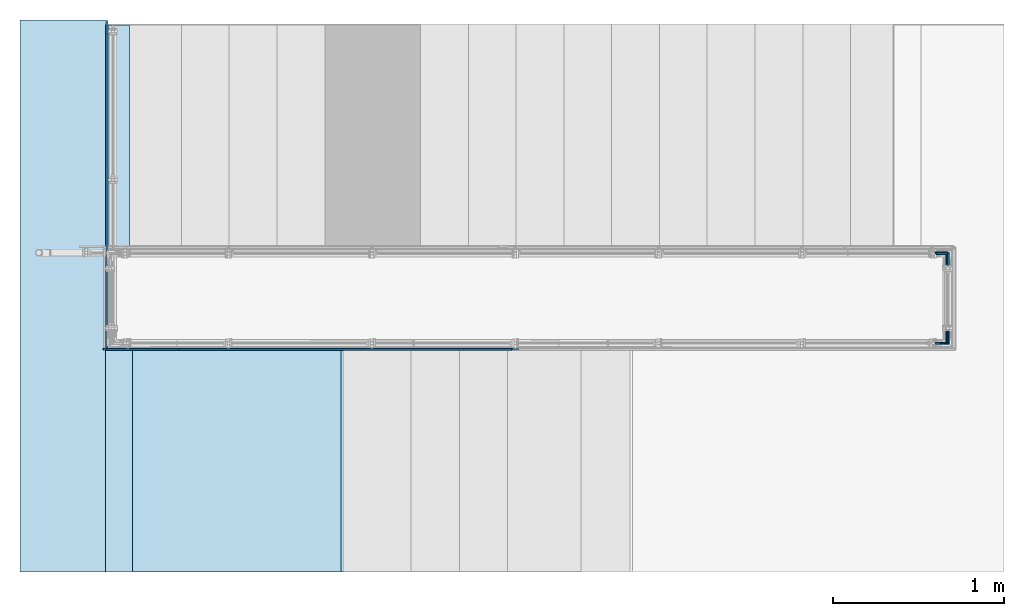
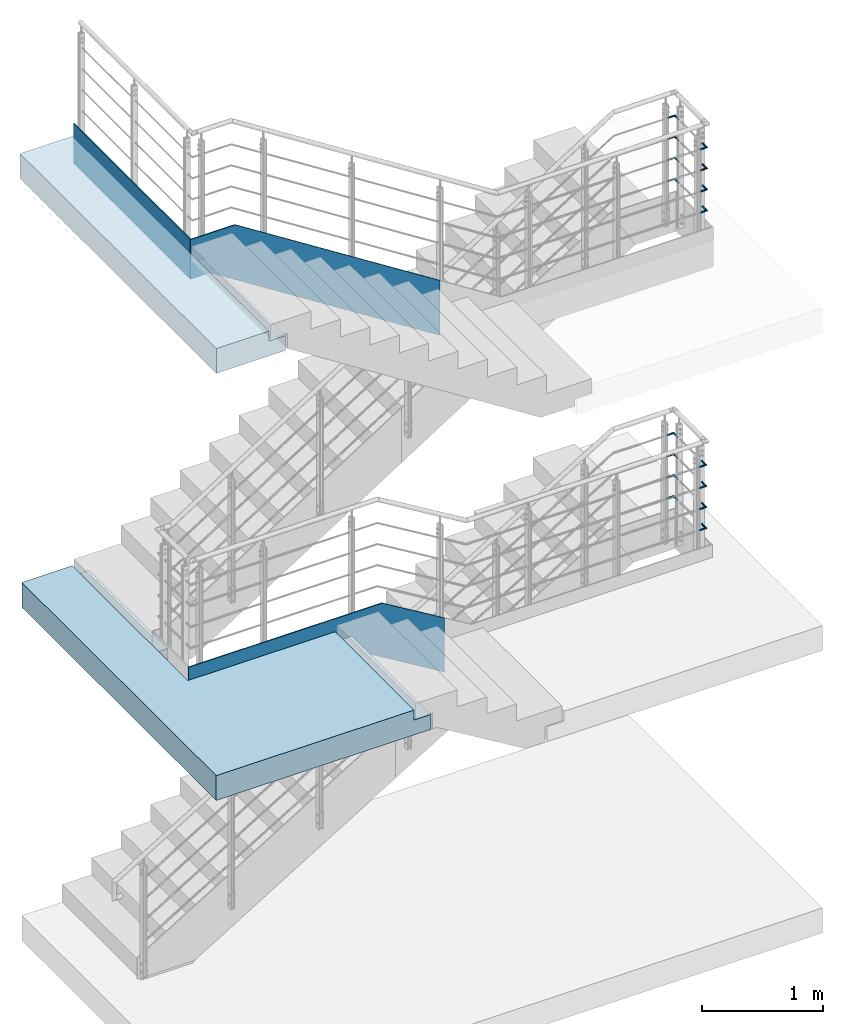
# One storey, part 16 of 98: 32 beams, 3 plates, 2 slabs, 5 openings.
"""IFC2X3 building model written with IfcOpenShell, lengths in millimetres."""

from ifc_helpers import new_model, entity, si_unit, converted_unit, frame, origin, origin_with_axes, origin_2d, place, context, project, spatial, polyline, circle, outline, extrude, clip, halfspace, material, layer, layer_set, element, save


model = new_model("IFC2X3")

# Units and contexts
model_context = context("Model", 3, precision=1e-09, world=origin_with_axes())
ifc_project = project(units=[si_unit("LENGTHUNIT", "METRE", prefix="MILLI"), si_unit("AREAUNIT", "SQUARE_METRE"), si_unit("VOLUMEUNIT", "CUBIC_METRE"), converted_unit("PLANEANGLEUNIT", "DEGREE", entity("IfcPlaneAngleMeasure", 0.01745329), si_unit("PLANEANGLEUNIT", "RADIAN"), dimensions=[0, 0, 0, 0, 0, 0, 0])], contexts=[model_context])

# Site, building, storey
site_placement = place(None, origin_with_axes())
site = spatial("IfcSite", under=ifc_project, at=site_placement, Name="Maybachstra?e 2, 71563 Affalterbach", CompositionType="ELEMENT")
building_placement = place(site_placement, origin_with_axes())
building = spatial("IfcBuilding", under=site, at=building_placement, Name="Struktur 1", CompositionType="ELEMENT")
storey_placement = place(building_placement, origin_with_axes())
storey = spatial("IfcBuildingStorey", under=building, at=storey_placement, Name="Default Storey", CompositionType="ELEMENT", Elevation=0.0)

# Beams
ifc_material_1 = material(Name="S235JR")
beam_1_placement = place(None, frame((12231.032157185, -33.0, 6711.3), z_axis=(0.0, 1.0, 0.0), x_axis=(0.0, 0.0, 1.0)))
element("IfcBeam", 1, at=beam_1_placement, inside=storey, material=ifc_material_1, Name="-", ObjectType="-", context=model_context, shape_type="Clipping", body=[
    clip(extrude(circle(Radius=6.0, at=origin_2d()), origin(), (0.0, 0.0, -1.0), 80.75), halfspace(frame((-6711.3, -6093.015371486, -6105.016785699), z_axis=(0.0, 0.707106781, -0.707106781), x_axis=(0.0, 0.707106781, 0.707106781)), True)),
])
beam_2_placement = place(None, frame((12231.032157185, -501.25, 6711.3), z_axis=(0.0, 1.0, 0.0), x_axis=(0.0, 0.0, 1.0)))
element("IfcBeam", 2, at=beam_2_placement, inside=storey, material=ifc_material_1, Name="-", ObjectType="-", context=model_context, shape_type="Clipping", body=[
    clip(extrude(circle(Radius=6.0, at=origin_2d()), origin(), (0.0, 0.0, -1.0), 80.75), halfspace(frame((-6711.3, -6400.515371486, 6331.766785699), z_axis=(0.0, 0.707106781, 0.707106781), x_axis=(0.0, -0.707106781, 0.707106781)), True)),
])
beam_3_placement = place(None, frame((12224.032157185, -28.0, 3518.8), z_axis=(0.0, 1.0, 0.0), x_axis=(0.0, 0.0, 1.0)))
element("IfcBeam", 3, at=beam_3_placement, inside=storey, material=ifc_material_1, Name="-", ObjectType="-", context=model_context, shape_type="Clipping", body=[
    clip(extrude(circle(Radius=6.0, at=origin_2d()), origin(), (0.0, 0.0, -1.0), 80.75), halfspace(frame((-3518.8, -6092.015371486, -6104.016785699), z_axis=(0.0, 0.707106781, -0.707106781), x_axis=(0.0, 0.707106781, 0.707106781)), True)),
])
beam_4_placement = place(None, frame((12224.032157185, -500.25, 3518.8), z_axis=(0.0, 1.0, 0.0), x_axis=(0.0, 0.0, 1.0)))
element("IfcBeam", 4, at=beam_4_placement, inside=storey, material=ifc_material_1, Name="-", ObjectType="-", context=model_context, shape_type="Clipping", body=[
    clip(extrude(circle(Radius=6.0, at=origin_2d()), origin(), (0.0, 0.0, -1.0), 80.75), halfspace(frame((-3518.8, -6396.515371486, 6327.766785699), z_axis=(0.0, 0.707106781, 0.707106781), x_axis=(0.0, -0.707106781, 0.707106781)), True)),
])
beam_5_placement = place(None, frame((12155.279157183, -569.0, 3518.8), z_axis=(-1.0, 0.0, 0.0), x_axis=(0.0, 0.0, -1.0)))
element("IfcBeam", 5, at=beam_5_placement, inside=storey, material=ifc_material_1, Name="-", ObjectType="-", context=model_context, shape_type="Clipping", body=[
    clip(extrude(circle(Radius=6.0, at=origin_2d()), origin(), (0.0, 0.0, -1.0), 80.753000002), halfspace(frame((3518.8, -6396.515371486, 6327.763785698), z_axis=(0.0, 0.707106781, 0.707106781), x_axis=(0.0, 0.707106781, -0.707106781)), True)),
])
beam_6_placement = place(None, frame((12162.279157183, -570.0, 6711.3), z_axis=(-1.0, 0.0, 0.0), x_axis=(0.0, 0.0, -1.0)))
element("IfcBeam", 6, at=beam_6_placement, inside=storey, material=ifc_material_1, Name="-", ObjectType="-", context=model_context, shape_type="Clipping", body=[
    clip(extrude(circle(Radius=6.0, at=origin_2d()), origin(), (0.0, 0.0, -1.0), 80.753000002), halfspace(frame((6711.3, -6400.515371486, 6331.763785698), z_axis=(0.0, 0.707106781, 0.707106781), x_axis=(0.0, 0.707106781, -0.707106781)), True)),
])
beam_7_placement = place(None, frame((12162.279157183, -45.0, 6711.3), z_axis=(-1.0, 0.0, 0.0), x_axis=(0.0, -1.0, 0.0)))
element("IfcBeam", 7, at=beam_7_placement, inside=storey, material=ifc_material_1, Name="-", ObjectType="-", context=model_context, shape_type="Clipping", body=[
    clip(extrude(circle(Radius=6.0, at=origin_2d()), origin(), (0.0, 0.0, -1.0), 80.753000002), halfspace(frame((6093.015371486, -6711.3, 6024.263785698), z_axis=(-0.707106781, 0.0, 0.707106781), x_axis=(0.707106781, 0.0, 0.707106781)), True)),
])
beam_8_placement = place(None, frame((12236.032157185, -40.0, 3518.8), z_axis=(1.0, 0.0, 0.0), x_axis=(0.0, 1.0, 0.0)))
element("IfcBeam", 8, at=beam_8_placement, inside=storey, material=ifc_material_1, Name="-", ObjectType="-", context=model_context, shape_type="Clipping", body=[
    clip(extrude(circle(Radius=6.0, at=origin_2d()), origin(), (0.0, 0.0, -1.0), 80.753000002), halfspace(frame((-6092.015371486, -3518.8, -6104.016785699), z_axis=(0.707106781, 0.0, -0.707106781), x_axis=(-0.707106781, 0.0, -0.707106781)), True)),
])
beam_9_placement = place(None, frame((12231.032157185, -33.0, 6287.3), z_axis=(0.0, 1.0, 0.0), x_axis=(0.0, 0.0, 1.0)))
element("IfcBeam", 9, at=beam_9_placement, inside=storey, material=ifc_material_1, Name="-", ObjectType="-", context=model_context, shape_type="Clipping", body=[
    clip(extrude(circle(Radius=6.0, at=origin_2d()), origin(), (0.0, 0.0, -1.0), 80.75), halfspace(frame((-6287.3, -6093.015371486, -6105.016785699), z_axis=(0.0, 0.707106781, -0.707106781), x_axis=(0.0, 0.707106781, 0.707106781)), True)),
])
beam_10_placement = place(None, frame((12231.032157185, -501.25, 6287.3), z_axis=(0.0, 1.0, 0.0), x_axis=(0.0, 0.0, 1.0)))
element("IfcBeam", 10, at=beam_10_placement, inside=storey, material=ifc_material_1, Name="-", ObjectType="-", context=model_context, shape_type="Clipping", body=[
    clip(extrude(circle(Radius=6.0, at=origin_2d()), origin(), (0.0, 0.0, -1.0), 80.75), halfspace(frame((-6287.3, -6400.515371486, 6331.766785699), z_axis=(0.0, 0.707106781, 0.707106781), x_axis=(0.0, -0.707106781, 0.707106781)), True)),
])
beam_11_placement = place(None, frame((12224.032157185, -28.0, 3094.8), z_axis=(0.0, 1.0, 0.0), x_axis=(0.0, 0.0, 1.0)))
element("IfcBeam", 11, at=beam_11_placement, inside=storey, material=ifc_material_1, Name="-", ObjectType="-", context=model_context, shape_type="Clipping", body=[
    clip(extrude(circle(Radius=6.0, at=origin_2d()), origin(), (0.0, 0.0, -1.0), 80.75), halfspace(frame((-3094.8, -6092.015371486, -6104.016785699), z_axis=(0.0, 0.707106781, -0.707106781), x_axis=(0.0, 0.707106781, 0.707106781)), True)),
])
beam_12_placement = place(None, frame((12224.032157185, -500.25, 3094.8), z_axis=(0.0, 1.0, 0.0), x_axis=(0.0, 0.0, 1.0)))
element("IfcBeam", 12, at=beam_12_placement, inside=storey, material=ifc_material_1, Name="-", ObjectType="-", context=model_context, shape_type="Clipping", body=[
    clip(extrude(circle(Radius=6.0, at=origin_2d()), origin(), (0.0, 0.0, -1.0), 80.75), halfspace(frame((-3094.8, -6396.515371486, 6327.766785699), z_axis=(0.0, 0.707106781, 0.707106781), x_axis=(0.0, -0.707106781, 0.707106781)), True)),
])
beam_13_placement = place(None, frame((12155.279157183, -569.0, 3094.8), z_axis=(-1.0, 0.0, 0.0), x_axis=(0.0, 0.0, -1.0)))
element("IfcBeam", 13, at=beam_13_placement, inside=storey, material=ifc_material_1, Name="-", ObjectType="-", context=model_context, shape_type="Clipping", body=[
    clip(extrude(circle(Radius=6.0, at=origin_2d()), origin(), (0.0, 0.0, -1.0), 80.753000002), halfspace(frame((3094.8, -6396.515371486, 6327.763785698), z_axis=(0.0, 0.707106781, 0.707106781), x_axis=(0.0, 0.707106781, -0.707106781)), True)),
])
beam_14_placement = place(None, frame((12162.279157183, -570.0, 6287.3), z_axis=(-1.0, 0.0, 0.0), x_axis=(0.0, 0.0, -1.0)))
element("IfcBeam", 14, at=beam_14_placement, inside=storey, material=ifc_material_1, Name="-", ObjectType="-", context=model_context, shape_type="Clipping", body=[
    clip(extrude(circle(Radius=6.0, at=origin_2d()), origin(), (0.0, 0.0, -1.0), 80.753000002), halfspace(frame((6287.3, -6400.515371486, 6331.763785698), z_axis=(0.0, 0.707106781, 0.707106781), x_axis=(0.0, 0.707106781, -0.707106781)), True)),
])
beam_15_placement = place(None, frame((12162.279157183, -45.0, 6287.3), z_axis=(-1.0, 0.0, 0.0), x_axis=(0.0, -1.0, 0.0)))
element("IfcBeam", 15, at=beam_15_placement, inside=storey, material=ifc_material_1, Name="-", ObjectType="-", context=model_context, shape_type="Clipping", body=[
    clip(extrude(circle(Radius=6.0, at=origin_2d()), origin(), (0.0, 0.0, -1.0), 80.753000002), halfspace(frame((6093.015371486, -6287.3, 6024.263785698), z_axis=(-0.707106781, 0.0, 0.707106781), x_axis=(0.707106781, 0.0, 0.707106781)), True)),
])
beam_16_placement = place(None, frame((12236.032157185, -40.0, 3094.8), z_axis=(1.0, 0.0, 0.0), x_axis=(0.0, 1.0, 0.0)))
element("IfcBeam", 16, at=beam_16_placement, inside=storey, material=ifc_material_1, Name="-", ObjectType="-", context=model_context, shape_type="Clipping", body=[
    clip(extrude(circle(Radius=6.0, at=origin_2d()), origin(), (0.0, 0.0, -1.0), 80.753000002), halfspace(frame((-6092.015371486, -3094.8, -6104.016785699), z_axis=(0.707106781, 0.0, -0.707106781), x_axis=(-0.707106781, 0.0, -0.707106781)), True)),
])
beam_17_placement = place(None, frame((12231.032157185, -33.0, 6499.3), z_axis=(0.0, 1.0, 0.0), x_axis=(0.0, 0.0, 1.0)))
element("IfcBeam", 17, at=beam_17_placement, inside=storey, material=ifc_material_1, Name="-", ObjectType="-", context=model_context, shape_type="Clipping", body=[
    clip(extrude(circle(Radius=6.0, at=origin_2d()), origin(), (0.0, 0.0, -1.0), 80.75), halfspace(frame((-6499.3, -6093.015371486, -6105.016785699), z_axis=(0.0, 0.707106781, -0.707106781), x_axis=(0.0, 0.707106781, 0.707106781)), True)),
])
beam_18_placement = place(None, frame((12231.032157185, -501.25, 6499.3), z_axis=(0.0, 1.0, 0.0), x_axis=(0.0, 0.0, 1.0)))
element("IfcBeam", 18, at=beam_18_placement, inside=storey, material=ifc_material_1, Name="-", ObjectType="-", context=model_context, shape_type="Clipping", body=[
    clip(extrude(circle(Radius=6.0, at=origin_2d()), origin(), (0.0, 0.0, -1.0), 80.75), halfspace(frame((-6499.3, -6400.515371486, 6331.766785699), z_axis=(0.0, 0.707106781, 0.707106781), x_axis=(0.0, -0.707106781, 0.707106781)), True)),
])
beam_19_placement = place(None, frame((12224.032157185, -28.0, 3306.8), z_axis=(0.0, 1.0, 0.0), x_axis=(0.0, 0.0, 1.0)))
element("IfcBeam", 19, at=beam_19_placement, inside=storey, material=ifc_material_1, Name="-", ObjectType="-", context=model_context, shape_type="Clipping", body=[
    clip(extrude(circle(Radius=6.0, at=origin_2d()), origin(), (0.0, 0.0, -1.0), 80.75), halfspace(frame((-3306.8, -6092.015371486, -6104.016785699), z_axis=(0.0, 0.707106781, -0.707106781), x_axis=(0.0, 0.707106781, 0.707106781)), True)),
])
beam_20_placement = place(None, frame((12224.032157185, -500.25, 3306.8), z_axis=(0.0, 1.0, 0.0), x_axis=(0.0, 0.0, 1.0)))
element("IfcBeam", 20, at=beam_20_placement, inside=storey, material=ifc_material_1, Name="-", ObjectType="-", context=model_context, shape_type="Clipping", body=[
    clip(extrude(circle(Radius=6.0, at=origin_2d()), origin(), (0.0, 0.0, -1.0), 80.75), halfspace(frame((-3306.8, -6396.515371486, 6327.766785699), z_axis=(0.0, 0.707106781, 0.707106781), x_axis=(0.0, -0.707106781, 0.707106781)), True)),
])
beam_21_placement = place(None, frame((12155.279157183, -569.0, 3306.8), z_axis=(-1.0, 0.0, 0.0), x_axis=(0.0, 0.0, -1.0)))
element("IfcBeam", 21, at=beam_21_placement, inside=storey, material=ifc_material_1, Name="-", ObjectType="-", context=model_context, shape_type="Clipping", body=[
    clip(extrude(circle(Radius=6.0, at=origin_2d()), origin(), (0.0, 0.0, -1.0), 80.753000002), halfspace(frame((3306.8, -6396.515371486, 6327.763785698), z_axis=(0.0, 0.707106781, 0.707106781), x_axis=(0.0, 0.707106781, -0.707106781)), True)),
])
beam_22_placement = place(None, frame((12162.279157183, -570.0, 6499.3), z_axis=(-1.0, 0.0, 0.0), x_axis=(0.0, 0.0, -1.0)))
element("IfcBeam", 22, at=beam_22_placement, inside=storey, material=ifc_material_1, Name="-", ObjectType="-", context=model_context, shape_type="Clipping", body=[
    clip(extrude(circle(Radius=6.0, at=origin_2d()), origin(), (0.0, 0.0, -1.0), 80.753000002), halfspace(frame((6499.3, -6400.515371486, 6331.763785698), z_axis=(0.0, 0.707106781, 0.707106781), x_axis=(0.0, 0.707106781, -0.707106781)), True)),
])
beam_23_placement = place(None, frame((12162.279157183, -45.0, 6499.3), z_axis=(-1.0, 0.0, 0.0), x_axis=(0.0, -1.0, 0.0)))
element("IfcBeam", 23, at=beam_23_placement, inside=storey, material=ifc_material_1, Name="-", ObjectType="-", context=model_context, shape_type="Clipping", body=[
    clip(extrude(circle(Radius=6.0, at=origin_2d()), origin(), (0.0, 0.0, -1.0), 80.753000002), halfspace(frame((6093.015371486, -6499.3, 6024.263785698), z_axis=(-0.707106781, 0.0, 0.707106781), x_axis=(0.707106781, 0.0, 0.707106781)), True)),
])
beam_24_placement = place(None, frame((12236.032157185, -40.0, 3306.8), z_axis=(1.0, 0.0, 0.0), x_axis=(0.0, 1.0, 0.0)))
element("IfcBeam", 24, at=beam_24_placement, inside=storey, material=ifc_material_1, Name="-", ObjectType="-", context=model_context, shape_type="Clipping", body=[
    clip(extrude(circle(Radius=6.0, at=origin_2d()), origin(), (0.0, 0.0, -1.0), 80.753000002), halfspace(frame((-6092.015371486, -3306.8, -6104.016785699), z_axis=(0.707106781, 0.0, -0.707106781), x_axis=(-0.707106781, 0.0, -0.707106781)), True)),
])
beam_25_placement = place(None, frame((12162.279157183, -570.0, 6923.3), z_axis=(-1.0, 0.0, 0.0), x_axis=(0.0, 0.0, -1.0)))
element("IfcBeam", 25, at=beam_25_placement, inside=storey, material=ifc_material_1, Name="-", ObjectType="-", context=model_context, shape_type="Clipping", body=[
    clip(extrude(circle(Radius=6.0, at=origin_2d()), origin(), (0.0, 0.0, -1.0), 80.753000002), halfspace(frame((6923.3, -6400.515371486, 6331.763785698), z_axis=(0.0, 0.707106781, 0.707106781), x_axis=(0.0, 0.707106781, -0.707106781)), True)),
])
beam_26_placement = place(None, frame((12162.279157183, -45.0, 6923.3), z_axis=(-1.0, 0.0, 0.0), x_axis=(0.0, -1.0, 0.0)))
element("IfcBeam", 26, at=beam_26_placement, inside=storey, material=ifc_material_1, Name="-", ObjectType="-", context=model_context, shape_type="Clipping", body=[
    clip(extrude(circle(Radius=6.0, at=origin_2d()), origin(), (0.0, 0.0, -1.0), 80.753000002), halfspace(frame((6093.015371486, -6923.3, 6024.263785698), z_axis=(-0.707106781, 0.0, 0.707106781), x_axis=(0.707106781, 0.0, 0.707106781)), True)),
])
beam_27_placement = place(None, frame((12155.279157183, -569.0, 3730.8), z_axis=(-1.0, 0.0, 0.0), x_axis=(0.0, 0.0, -1.0)))
element("IfcBeam", 27, at=beam_27_placement, inside=storey, material=ifc_material_1, Name="-", ObjectType="-", context=model_context, shape_type="Clipping", body=[
    clip(extrude(circle(Radius=6.0, at=origin_2d()), origin(), (0.0, 0.0, -1.0), 80.753000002), halfspace(frame((3730.8, -6396.515371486, 6327.763785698), z_axis=(0.0, 0.707106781, 0.707106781), x_axis=(0.0, 0.707106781, -0.707106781)), True)),
])
beam_28_placement = place(None, frame((12236.032157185, -40.0, 3730.8), z_axis=(1.0, 0.0, 0.0), x_axis=(0.0, 1.0, 0.0)))
element("IfcBeam", 28, at=beam_28_placement, inside=storey, material=ifc_material_1, Name="-", ObjectType="-", context=model_context, shape_type="Clipping", body=[
    clip(extrude(circle(Radius=6.0, at=origin_2d()), origin(), (0.0, 0.0, -1.0), 80.753000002), halfspace(frame((-6092.015371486, -3730.8, -6104.016785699), z_axis=(0.707106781, 0.0, -0.707106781), x_axis=(-0.707106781, 0.0, -0.707106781)), True)),
])
beam_29_placement = place(None, frame((12231.032157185, -33.0, 6923.3), z_axis=(0.0, 1.0, 0.0), x_axis=(0.0, 0.0, 1.0)))
element("IfcBeam", 29, at=beam_29_placement, inside=storey, material=ifc_material_1, Name="-", ObjectType="-", context=model_context, shape_type="Clipping", body=[
    clip(extrude(circle(Radius=6.0, at=origin_2d()), origin(), (0.0, 0.0, -1.0), 80.75), halfspace(frame((-6923.3, -6093.015371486, -6105.016785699), z_axis=(0.0, 0.707106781, -0.707106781), x_axis=(0.0, 0.707106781, 0.707106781)), True)),
])
beam_30_placement = place(None, frame((12231.032157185, -501.25, 6923.3), z_axis=(0.0, 1.0, 0.0), x_axis=(0.0, 0.0, 1.0)))
element("IfcBeam", 30, at=beam_30_placement, inside=storey, material=ifc_material_1, Name="-", ObjectType="-", context=model_context, shape_type="Clipping", body=[
    clip(extrude(circle(Radius=6.0, at=origin_2d()), origin(), (0.0, 0.0, -1.0), 80.75), halfspace(frame((-6923.3, -6400.515371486, 6331.766785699), z_axis=(0.0, 0.707106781, 0.707106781), x_axis=(0.0, -0.707106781, 0.707106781)), True)),
])
beam_31_placement = place(None, frame((12224.032157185, -28.0, 3730.8), z_axis=(0.0, 1.0, 0.0), x_axis=(0.0, 0.0, 1.0)))
element("IfcBeam", 31, at=beam_31_placement, inside=storey, material=ifc_material_1, Name="-", ObjectType="-", context=model_context, shape_type="Clipping", body=[
    clip(extrude(circle(Radius=6.0, at=origin_2d()), origin(), (0.0, 0.0, -1.0), 80.75), halfspace(frame((-3730.8, -6092.015371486, -6104.016785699), z_axis=(0.0, 0.707106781, -0.707106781), x_axis=(0.0, 0.707106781, 0.707106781)), True)),
])
beam_32_placement = place(None, frame((12224.032157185, -500.25, 3730.8), z_axis=(0.0, 1.0, 0.0), x_axis=(0.0, 0.0, 1.0)))
element("IfcBeam", 32, at=beam_32_placement, inside=storey, material=ifc_material_1, Name="-", ObjectType="-", context=model_context, shape_type="Clipping", body=[
    clip(extrude(circle(Radius=6.0, at=origin_2d()), origin(), (0.0, 0.0, -1.0), 80.75), halfspace(frame((-3730.8, -6396.515371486, 6327.766785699), z_axis=(0.0, 0.707106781, 0.707106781), x_axis=(0.0, -0.707106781, 0.707106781)), True)),
])

# Plates
ifc_layer_1 = layer(ifc_material_1, 10.0)
ifc_layer_set_1 = layer_set([ifc_layer_1], Name="S235JR")
plate_1_placement = place(None, frame((7308.029157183, 360.0, 7544.999999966), z_axis=(-1.0, 0.0, 0.0), x_axis=(0.0, -1.0, 0.0)))
element("IfcPlate", 33, at=plate_1_placement, inside=storey, material=ifc_layer_set_1, Name="-", ObjectType="-", context=model_context, shape_type="SweptSolid", body=[
    extrude(outline(polyline([(-960.0, -200.0), (960.0, -200.0), (960.0, 200.0), (-960.0, 200.0), (-960.0, -200.0)])), origin_with_axes(), (0.0, 0.0, 1.0), 10.0),
])
plate_2_placement = place(None, frame((7278.028157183, -599.0, 3450.0), z_axis=(0.0, -1.0, 0.0), x_axis=(0.0, 0.0, -1.0)))
element("IfcPlate", 34, at=plate_2_placement, inside=storey, material=ifc_layer_set_1, Name="-", ObjectType="-", context=model_context, shape_type="SweptSolid", body=[
    extrude(outline(polyline([(356.008692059, 2435.251), (0.0, 1844.695404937), (0.0, 3.0), (400.0, 3.0), (400.0, 1607.552645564), (898.9670931, 2435.251), (356.008692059, 2435.251)])), origin_with_axes(), (0.0, 0.0, 1.0), 10.0),
])
plate_3_placement = place(None, frame((12274.032157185, -600.0, 5732.5), z_axis=(0.0, -1.0, 0.0), x_axis=(0.0, 0.0, 1.0)))
element("IfcPlate", 35, at=plate_3_placement, inside=storey, material=ifc_layer_set_1, Name="-", ObjectType="-", context=model_context, shape_type="SweptSolid", body=[
    extrude(outline(polyline([(769.066845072, 2600.753000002), (2012.499999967, 4549.989137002), (2012.499999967, 4976.003000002), (1612.499999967, 4976.003000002), (1612.499999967, 4787.570117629), (217.512057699, 2600.753000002), (769.066845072, 2600.753000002)])), origin_with_axes(), (0.0, 0.0, 1.0), 10.0),
])

# Slab, openings
ifc_material_2 = material(Name="C25/30")
ifc_layer_2 = layer(ifc_material_2, 250.0)
ifc_layer_set_2 = layer_set([ifc_layer_2], Name="C25/30")
slab_1_placement = place(None, frame((7814.038813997, -307.0, 3070.0), z_axis=(0.0, 0.0, 1.0), x_axis=(1.0, 0.0, 0.0)))
slab_1 = element("IfcSlab", 36, at=slab_1_placement, inside=storey, material=ifc_layer_set_2, Name="-", ObjectType="-", context=model_context, shape_type="SweptSolid", body=[
    extrude(outline(polyline([(-1020.991343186, -1602.0), (1020.991343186, -1602.0), (1020.991343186, 1602.0), (-1020.991343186, 1602.0), (-1020.991343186, -1602.0)])), origin_with_axes(), (0.0, 0.0, 1.0), 250.0),
])
opening_1_placement = place(slab_1_placement, frame((0.0, 1602.1, 125.0), z_axis=(0.0, -1.0, 0.0), x_axis=(1.0, 0.0, 0.0)))
element("IfcOpeningElement", 37, at=opening_1_placement, cuts=slab_1, ObjectType="Opening", context=model_context, shape_type="SweptSolid", body=[
    extrude(outline(polyline([(860.990343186, 24.999), (1302.871078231, 24.999), (1302.871078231, 410.087003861), (860.990343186, 410.087003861), (860.990343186, 24.999)])), origin(), (0.0, 0.0, 1.0), 3204.2),
])
opening_2_placement = place(slab_1_placement, frame((0.0, 0.0, 150.0), z_axis=(0.0, 0.0, 1.0), x_axis=(1.0, 0.0, 0.0)))
element("IfcOpeningElement", 38, at=opening_2_placement, cuts=slab_1, ObjectType="Opening", context=model_context, shape_type="SweptSolid", body=[
    extrude(outline(polyline([(-541.009656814, 291.999), (-166.551035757, 291.999), (-166.551035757, 1602.001), (-541.009656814, 1602.001), (-541.009656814, 291.999)])), origin(), (0.0, 0.0, 1.0), 100.1),
])
opening_3_placement = place(slab_1_placement, frame((0.0, 0.0, -0.1), z_axis=(0.0, 0.0, 1.0), x_axis=(1.0, 0.0, 0.0)))
element("IfcOpeningElement", 39, at=opening_3_placement, cuts=slab_1, ObjectType="Opening", context=model_context, shape_type="SweptSolid", body=[
    extrude(outline(polyline([(-379.010656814, 2012.348121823), (-379.010656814, 302.001), (-541.010656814, 302.001), (-541.010656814, -302.001), (1321.891639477, -302.001), (1321.891639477, 2012.348121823), (-379.010656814, 2012.348121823)])), origin(), (0.0, 0.0, 1.0), 250.2),
])

slab_2_placement = place(None, frame((7123.038813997, -293.0, 7364.999999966), z_axis=(0.0, 0.0, 1.0), x_axis=(1.0, 0.0, 0.0)))
slab_2 = element("IfcSlab", 40, at=slab_2_placement, inside=storey, material=ifc_layer_set_2, Name="-", ObjectType="-", context=model_context, shape_type="SweptSolid", body=[
    extrude(outline(polyline([(-329.991343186, -1617.0), (329.991343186, -1617.0), (329.991343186, 1617.0), (-329.991343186, 1617.0), (-329.991343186, -1617.0)])), origin_with_axes(), (0.0, 0.0, 1.0), 250.0),
])
opening_4_placement = place(slab_2_placement, frame((0.0, 1617.1, 125.0), z_axis=(0.0, -1.0, 0.0), x_axis=(1.0, 0.0, 0.0)))
element("IfcOpeningElement", 41, at=opening_4_placement, cuts=slab_2, ObjectType="Opening", context=model_context, shape_type="SweptSolid", body=[
    extrude(outline(polyline([(169.990343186, 24.999), (680.628312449, 24.999), (680.628312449, 440.852329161), (169.990343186, 440.852329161), (169.990343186, 24.999)])), origin(), (0.0, 0.0, 1.0), 3234.2),
])
opening_5_placement = place(slab_2_placement, frame((0.0, 0.0, -0.1), z_axis=(0.0, 0.0, 1.0), x_axis=(1.0, 0.0, 0.0)))
element("IfcOpeningElement", 42, at=opening_5_placement, cuts=slab_2, ObjectType="Opening", context=model_context, shape_type="SweptSolid", body=[
    extrude(outline(polyline([(169.989343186, -317.001), (1011.197731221, -317.001), (1011.197731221, 1701.076270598), (169.989343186, 1701.076270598), (169.989343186, -317.001)])), origin(), (0.0, 0.0, 1.0), 250.2),
])

save(model, "model.ifc")
